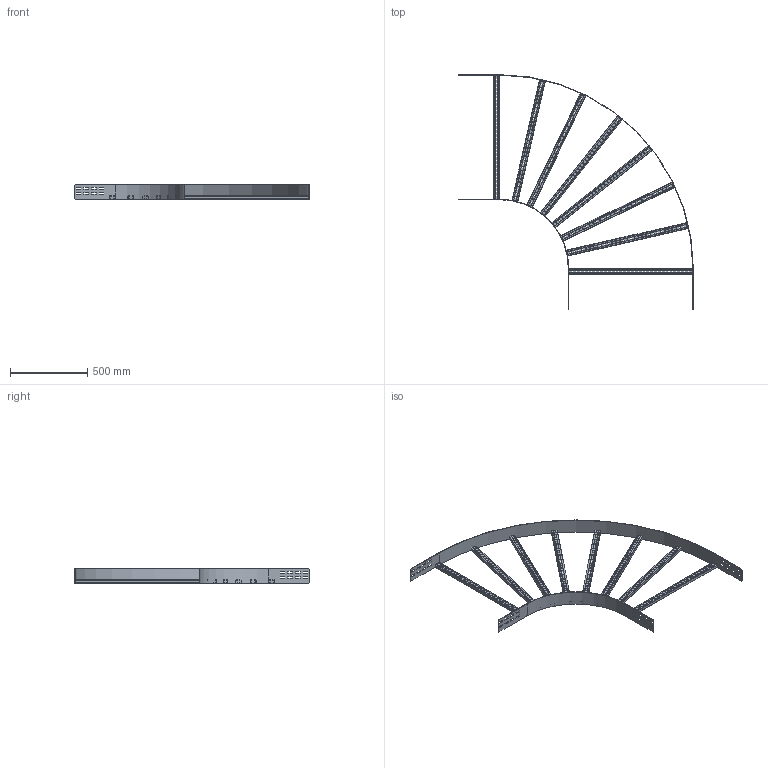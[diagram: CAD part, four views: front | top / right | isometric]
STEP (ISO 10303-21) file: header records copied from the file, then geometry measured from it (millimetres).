
FILE_DESCRIPTION(('Creo Elements/Direct Modeling STEP Export'),'2;1');
FILE_NAME('//pserver/office/EK/ME10-3D/3D-output/WPHB10-80-90-45.stp','2020-12-09T 9:55:34',(''),(''),'PTC Creo Elements/Direct Modeling STEP processor for AP214 (Solid Model)','PTC Creo Elements/Direct Modeling 19.0C 15-Aug-2015 (C) Parametric Technology GmbH','');
FILE_SCHEMA(('AUTOMOTIVE_DESIGN { 1 0 10303 214 1 1 1 1 }'));
Length unit declared in the file: millimetre
Products named in the file (4): WPHBA_100-80; WPSPF_080.1.7; WPBI_100; WPHB10-80-90-45
Assembly tree (10 placements, depth 2):
  WPHB10-80-90-45
    WPSPF_080.1.7  x8
    WPBI_100
    WPHBA_100-80
Bounding box: 1523 x 1523 x 95 mm (x, y, z)
Volume: 1987663.5 mm3; surface area: 2031184 mm2
Topology: 10 solids, 10 shells, 1532 faces, 4536 edges, 3024 vertices
Faces by surface type: plane 856, cylinder 676
Entity records: 11248 total; most frequent: CARTESIAN_POINT 1941, ORIENTED_EDGE 1932, DIRECTION 1809, EDGE_CURVE 966, VECTOR 785, LINE 785, VERTEX_POINT 644, AXIS2_PLACEMENT_3D 512
